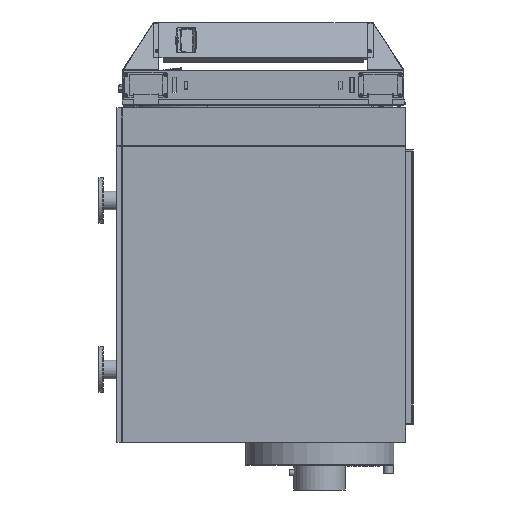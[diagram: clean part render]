
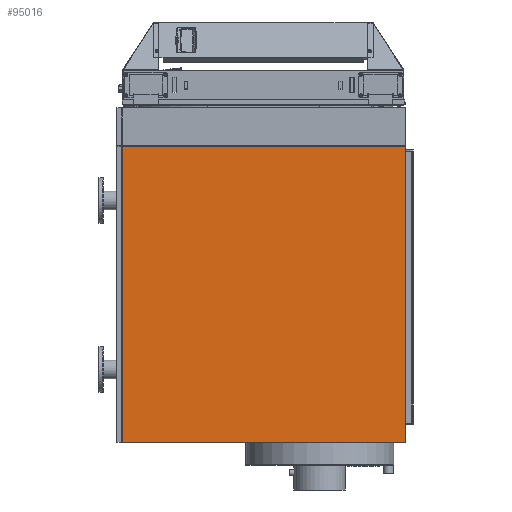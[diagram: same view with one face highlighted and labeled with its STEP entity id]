
A CAD part, left-side view. The second image highlights one B-rep face of the part: STEP entity #95016.
In plain terms, the highlighted planar face has unit normal (-1, 0, 0).
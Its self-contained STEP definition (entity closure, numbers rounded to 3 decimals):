
#907 = CARTESIAN_POINT ( 'NONE',  ( -366.705, 598.632, 18.15 ) ) ;
#1813 = CARTESIAN_POINT ( 'NONE',  ( -366.705, 598.632, -1180.15 ) ) ;
#5467 = VECTOR ( 'NONE', #62910, 1000. ) ;
#8312 = FACE_OUTER_BOUND ( 'NONE', #38522, .T. ) ;
#8926 = VERTEX_POINT ( 'NONE', #1813 ) ;
#9879 = DIRECTION ( 'NONE',  ( 0., 0., -1. ) ) ;
#10181 = ORIENTED_EDGE ( 'NONE', *, *, #53987, .T. ) ;
#10298 = CARTESIAN_POINT ( 'NONE',  ( -366.705, -549.668, -1180.15 ) ) ;
#13369 = LINE ( 'NONE', #100900, #5467 ) ;
#14777 = VERTEX_POINT ( 'NONE', #907 ) ;
#17814 = DIRECTION ( 'NONE',  ( 1., 0., 0. ) ) ;
#18176 = EDGE_CURVE ( 'NONE', #55667, #14777, #67727, .T. ) ;
#20579 = VERTEX_POINT ( 'NONE', #10298 ) ;
#21813 = LINE ( 'NONE', #38138, #55944 ) ;
#23725 = CARTESIAN_POINT ( 'NONE',  ( -366.705, -549.668, 18.15 ) ) ;
#27686 = DIRECTION ( 'NONE',  ( 0., 1., 0. ) ) ;
#38138 = CARTESIAN_POINT ( 'NONE',  ( -366.705, 599.482, -1180.15 ) ) ;
#38522 = EDGE_LOOP ( 'NONE', ( #10181, #76768, #56697, #43185 ) ) ;
#40462 = PLANE ( 'NONE',  #55776 ) ;
#42458 = CARTESIAN_POINT ( 'NONE',  ( -366.705, -550.518, 18.15 ) ) ;
#43185 = ORIENTED_EDGE ( 'NONE', *, *, #66279, .T. ) ;
#45980 = LINE ( 'NONE', #78133, #56301 ) ;
#53987 = EDGE_CURVE ( 'NONE', #20579, #55667, #45980, .T. ) ;
#55667 = VERTEX_POINT ( 'NONE', #23725 ) ;
#55776 = AXIS2_PLACEMENT_3D ( 'NONE', #90006, #17814, #9879 ) ;
#55944 = VECTOR ( 'NONE', #62389, 1000. ) ;
#56301 = VECTOR ( 'NONE', #102888, 1000. ) ;
#56697 = ORIENTED_EDGE ( 'NONE', *, *, #66258, .T. ) ;
#62389 = DIRECTION ( 'NONE',  ( 0., -1., 0. ) ) ;
#62910 = DIRECTION ( 'NONE',  ( 0., 0., -1. ) ) ;
#65654 = VECTOR ( 'NONE', #27686, 1000. ) ;
#66258 = EDGE_CURVE ( 'NONE', #14777, #8926, #13369, .T. ) ;
#66279 = EDGE_CURVE ( 'NONE', #8926, #20579, #21813, .T. ) ;
#67727 = LINE ( 'NONE', #42458, #65654 ) ;
#76768 = ORIENTED_EDGE ( 'NONE', *, *, #18176, .T. ) ;
#78133 = CARTESIAN_POINT ( 'NONE',  ( -366.705, -549.668, -1181. ) ) ;
#90006 = CARTESIAN_POINT ( 'NONE',  ( -366.705, 599.482, 19. ) ) ;
#95016 = ADVANCED_FACE ( 'NONE', ( #8312 ), #40462, .F. ) ;
#100900 = CARTESIAN_POINT ( 'NONE',  ( -366.705, 598.632, 6019. ) ) ;
#102888 = DIRECTION ( 'NONE',  ( 0., 0., 1. ) ) ;
